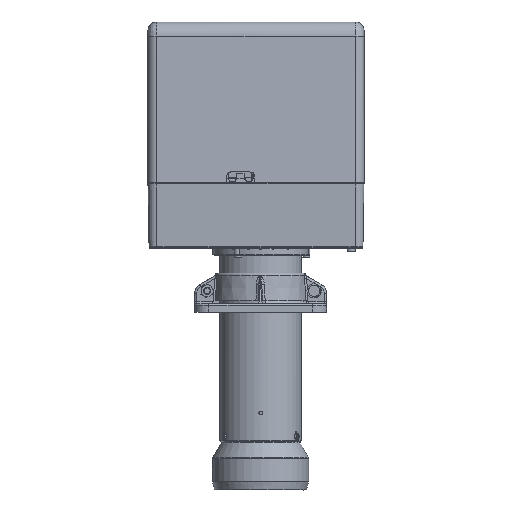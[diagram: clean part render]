
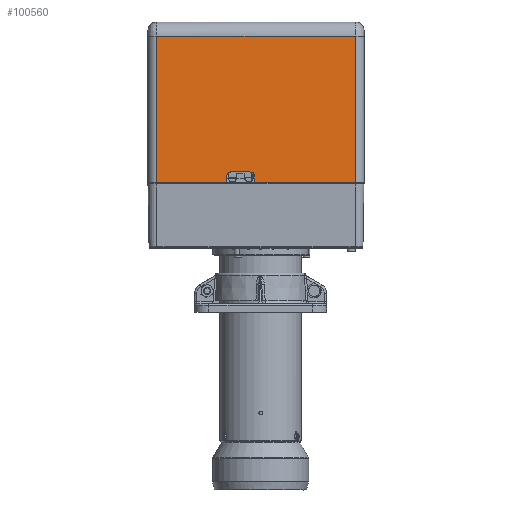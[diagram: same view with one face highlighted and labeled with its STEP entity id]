
A CAD part, front view. The second image highlights one B-rep face of the part: STEP entity #100560.
In plain terms, the highlighted planar face has unit normal (0, -0.999, 0.035).
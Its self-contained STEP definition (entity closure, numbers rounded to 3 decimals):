
#2026 = EDGE_CURVE ( 'NONE', #80473, #89864, #104192, .T. ) ;
#3170 = CARTESIAN_POINT ( 'NONE',  ( 126.277, -195.038, 595.419 ) ) ;
#5314 = EDGE_CURVE ( 'NONE', #115459, #110485, #26092, .T. ) ;
#6160 = VECTOR ( 'NONE', #74134, 1000. ) ;
#7940 = CARTESIAN_POINT ( 'NONE',  ( 138.777, -195.038, 595.419 ) ) ;
#11287 = ORIENTED_EDGE ( 'NONE', *, *, #60544, .F. ) ;
#12473 = CARTESIAN_POINT ( 'NONE',  ( -54.223, -202.215, 389.903 ) ) ;
#17594 = DIRECTION ( 'NONE',  ( 1., 0., 0. ) ) ;
#18625 = CARTESIAN_POINT ( 'NONE',  ( -151.723, -202.215, 389.903 ) ) ;
#21134 = LINE ( 'NONE', #12473, #49625 ) ;
#22785 = LINE ( 'NONE', #40321, #58711 ) ;
#23736 = EDGE_CURVE ( 'NONE', #45195, #104448, #21134, .T. ) ;
#24138 = ORIENTED_EDGE ( 'NONE', *, *, #2026, .F. ) ;
#25100 = CARTESIAN_POINT ( 'NONE',  ( -21.223, -201.691, 404.903 ) ) ;
#25242 = CARTESIAN_POINT ( 'NONE',  ( -14.223, -201.793, 402.004 ) ) ;
#26092 = LINE ( 'NONE', #27401, #29071 ) ;
#26434 = VECTOR ( 'NONE', #93403, 1000. ) ;
#26462 = CARTESIAN_POINT ( 'NONE',  ( -151.723, -202.215, 389.903 ) ) ;
#26941 = VERTEX_POINT ( 'NONE', #123237 ) ;
#27401 = CARTESIAN_POINT ( 'NONE',  ( 138.777, -202.215, 389.903 ) ) ;
#27939 = EDGE_CURVE ( 'NONE', #89864, #119563, #47715, .T. ) ;
#28621 = CARTESIAN_POINT ( 'NONE',  ( -54.223, -202.215, 389.903 ) ) ;
#29071 = VECTOR ( 'NONE', #94340, 1000. ) ;
#30397 = DIRECTION ( 'NONE',  ( 0., 0.035, 0.999 ) ) ;
#30453 = VECTOR ( 'NONE', #64035, 1000. ) ;
#33492 = PLANE ( 'NONE',  #42087 ) ;
#34006 = CARTESIAN_POINT ( 'NONE',  ( -17.122, -201.691, 404.903 ) ) ;
#34712 = DIRECTION ( 'NONE',  ( 0., -0.999, 0.035 ) ) ;
#40308 = ORIENTED_EDGE ( 'NONE', *, *, #48033, .T. ) ;
#40321 = CARTESIAN_POINT ( 'NONE',  ( 138.777, -202.215, 389.903 ) ) ;
#42087 = AXIS2_PLACEMENT_3D ( 'NONE', #110460, #34712, #53206 ) ;
#43296 = ORIENTED_EDGE ( 'NONE', *, *, #27939, .F. ) ;
#44774 = EDGE_CURVE ( 'NONE', #110485, #119563, #81393, .T. ) ;
#45195 = VERTEX_POINT ( 'NONE', #28621 ) ;
#46550 = CARTESIAN_POINT ( 'NONE',  ( -151.723, -195.038, 595.419 ) ) ;
#47715 = LINE ( 'NONE', #7940, #95579 ) ;
#48033 = EDGE_CURVE ( 'NONE', #98382, #49318, #99029, .T. ) ;
#48195 =( BOUNDED_CURVE ( )  B_SPLINE_CURVE ( 3, ( #52507, #34006, #25242, #53716 ),
 .UNSPECIFIED., .F., .F. ) 
 B_SPLINE_CURVE_WITH_KNOTS ( ( 4, 4 ),
 ( 3.142, 4.712 ),
 .UNSPECIFIED. ) 
 CURVE ( )  GEOMETRIC_REPRESENTATION_ITEM ( )  RATIONAL_B_SPLINE_CURVE ( ( 1., 0.805, 0.805, 1. ) ) 
 REPRESENTATION_ITEM ( '' )  );
#49318 = VERTEX_POINT ( 'NONE', #25100 ) ;
#49625 = VECTOR ( 'NONE', #99104, 1000. ) ;
#52507 = CARTESIAN_POINT ( 'NONE',  ( -21.223, -201.691, 404.903 ) ) ;
#52654 = CARTESIAN_POINT ( 'NONE',  ( 126.277, -202.215, 389.903 ) ) ;
#53206 = DIRECTION ( 'NONE',  ( 0., 0.035, 0.999 ) ) ;
#53716 = CARTESIAN_POINT ( 'NONE',  ( -14.223, -201.936, 397.903 ) ) ;
#55649 = CARTESIAN_POINT ( 'NONE',  ( -14.223, -202.215, 389.903 ) ) ;
#58711 = VECTOR ( 'NONE', #107222, 1000. ) ;
#58953 = LINE ( 'NONE', #55649, #30453 ) ;
#59502 = ORIENTED_EDGE ( 'NONE', *, *, #5314, .T. ) ;
#60544 = EDGE_CURVE ( 'NONE', #45195, #80473, #22785, .T. ) ;
#61359 = CARTESIAN_POINT ( 'NONE',  ( -54.223, -201.936, 397.903 ) ) ;
#61444 = ORIENTED_EDGE ( 'NONE', *, *, #44774, .T. ) ;
#64035 = DIRECTION ( 'NONE',  ( 0., -0.035, -0.999 ) ) ;
#64127 = CARTESIAN_POINT ( 'NONE',  ( 138.777, -201.691, 404.903 ) ) ;
#64763 = CARTESIAN_POINT ( 'NONE',  ( -54.223, -201.936, 397.903 ) ) ;
#74134 = DIRECTION ( 'NONE',  ( 1., 0., 0. ) ) ;
#80473 = VERTEX_POINT ( 'NONE', #18625 ) ;
#81393 = LINE ( 'NONE', #105704, #99386 ) ;
#82758 = ORIENTED_EDGE ( 'NONE', *, *, #89051, .T. ) ;
#82879 = CARTESIAN_POINT ( 'NONE',  ( -47.223, -201.691, 404.903 ) ) ;
#84362 = EDGE_LOOP ( 'NONE', ( #103039, #59502, #61444, #43296, #24138, #11287, #89985, #82758, #40308, #95630 ) ) ;
#86001 = CARTESIAN_POINT ( 'NONE',  ( -14.223, -202.215, 389.903 ) ) ;
#89051 = EDGE_CURVE ( 'NONE', #104448, #98382, #89669, .T. ) ;
#89340 = CARTESIAN_POINT ( 'NONE',  ( -51.323, -201.691, 404.903 ) ) ;
#89669 =( BOUNDED_CURVE ( )  B_SPLINE_CURVE ( 3, ( #61359, #99774, #89340, #90999 ),
 .UNSPECIFIED., .F., .F. ) 
 B_SPLINE_CURVE_WITH_KNOTS ( ( 4, 4 ),
 ( 1.571, 3.142 ),
 .UNSPECIFIED. ) 
 CURVE ( )  GEOMETRIC_REPRESENTATION_ITEM ( )  RATIONAL_B_SPLINE_CURVE ( ( 1., 0.805, 0.805, 1. ) ) 
 REPRESENTATION_ITEM ( '' )  );
#89864 = VERTEX_POINT ( 'NONE', #46550 ) ;
#89985 = ORIENTED_EDGE ( 'NONE', *, *, #23736, .T. ) ;
#90999 = CARTESIAN_POINT ( 'NONE',  ( -47.223, -201.691, 404.903 ) ) ;
#91777 = FACE_OUTER_BOUND ( 'NONE', #84362, .T. ) ;
#93403 = DIRECTION ( 'NONE',  ( 0., 0.035, 0.999 ) ) ;
#93934 = EDGE_CURVE ( 'NONE', #26941, #115459, #58953, .T. ) ;
#94340 = DIRECTION ( 'NONE',  ( 1., 0., 0. ) ) ;
#95579 = VECTOR ( 'NONE', #17594, 1000. ) ;
#95630 = ORIENTED_EDGE ( 'NONE', *, *, #112052, .T. ) ;
#98382 = VERTEX_POINT ( 'NONE', #82879 ) ;
#99029 = LINE ( 'NONE', #64127, #6160 ) ;
#99104 = DIRECTION ( 'NONE',  ( 0., 0.035, 0.999 ) ) ;
#99386 = VECTOR ( 'NONE', #30397, 1000. ) ;
#99774 = CARTESIAN_POINT ( 'NONE',  ( -54.223, -201.793, 402.004 ) ) ;
#100560 = ADVANCED_FACE ( 'NONE', ( #91777 ), #33492, .T. ) ;
#103039 = ORIENTED_EDGE ( 'NONE', *, *, #93934, .T. ) ;
#104192 = LINE ( 'NONE', #26462, #26434 ) ;
#104448 = VERTEX_POINT ( 'NONE', #64763 ) ;
#105704 = CARTESIAN_POINT ( 'NONE',  ( 126.277, -202.215, 389.903 ) ) ;
#107222 = DIRECTION ( 'NONE',  ( -1., 0., 0. ) ) ;
#110460 = CARTESIAN_POINT ( 'NONE',  ( 138.777, -202.215, 389.903 ) ) ;
#110485 = VERTEX_POINT ( 'NONE', #52654 ) ;
#112052 = EDGE_CURVE ( 'NONE', #49318, #26941, #48195, .T. ) ;
#115459 = VERTEX_POINT ( 'NONE', #86001 ) ;
#119563 = VERTEX_POINT ( 'NONE', #3170 ) ;
#123237 = CARTESIAN_POINT ( 'NONE',  ( -14.223, -201.936, 397.903 ) ) ;
